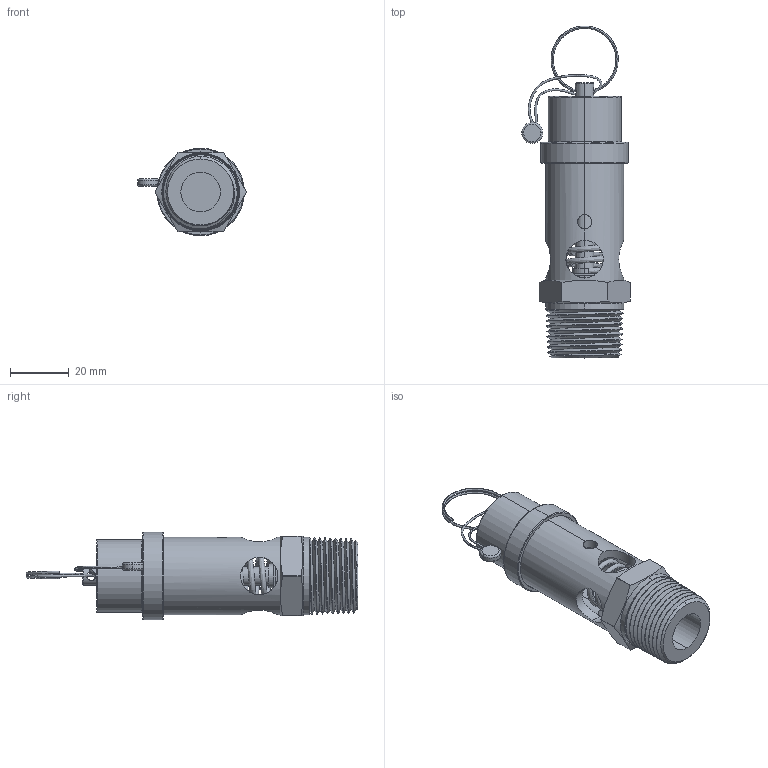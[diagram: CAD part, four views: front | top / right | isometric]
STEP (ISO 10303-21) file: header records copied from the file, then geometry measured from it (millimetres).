
FILE_DESCRIPTION (( 'STEP AP203' ), '1' );
FILE_NAME ('SSCV6-SERIES.STEP', '2020-07-02T20:53:27', ( '' ), ( '' ), 'SwSTEP 2.0', 'SolidWorks 2017', '' );
FILE_SCHEMA (( 'CONFIG_CONTROL_DESIGN' ));
Length unit declared in the file: inch
Products named in the file (2): SSCV6-SERIES
Bounding box: 36.85 x 112.72 x 29.72 mm (x, y, z)
Volume: 26641.5 mm3; surface area: 18005 mm2
Topology: 2 solids, 2 shells, 127 faces, 324 edges, 211 vertices
Faces by surface type: cylinder 44, cone 32, plane 24, bspline 15, torus 12
Entity records: 15609 total; most frequent: CARTESIAN_POINT 12584, ORIENTED_EDGE 642, DIRECTION 528, EDGE_CURVE 321, AXIS2_PLACEMENT_3D 220, VERTEX_POINT 205, EDGE_LOOP 148, FACE_OUTER_BOUND 127
